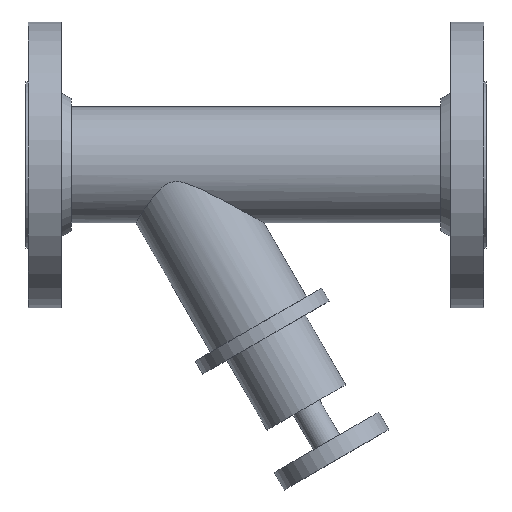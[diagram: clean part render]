
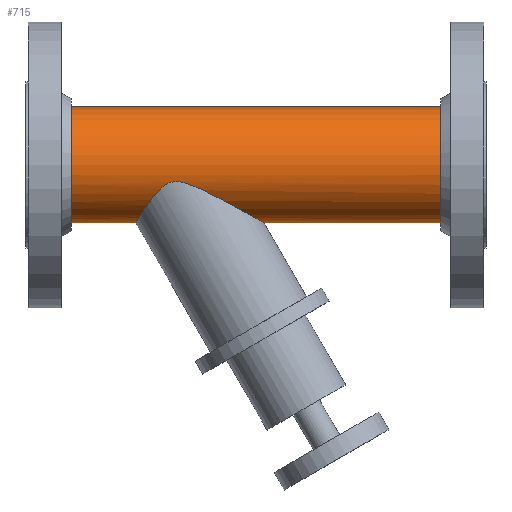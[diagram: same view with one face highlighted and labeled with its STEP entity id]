
A CAD part, top view. The second image highlights one B-rep face of the part: STEP entity #715.
In plain terms, the highlighted cylindrical face has radius 36.513 mm (diameter 73.025 mm), a full revolution.
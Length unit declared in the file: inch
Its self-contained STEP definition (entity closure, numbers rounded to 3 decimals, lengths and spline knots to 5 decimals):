
#45=B_SPLINE_CURVE_WITH_KNOTS('',3,(#1248,#1249,#1250,#1251,#1252,#1253,
#1254,#1255,#1256,#1257,#1258,#1259,#1260,#1261,#1262,#1263,#1264,#1265,
#1266,#1267,#1268,#1269,#1270,#1271,#1272,#1273,#1274,#1275,#1276,#1277,
#1278,#1279,#1280,#1281,#1282,#1283,#1284,#1285),.UNSPECIFIED.,.F.,.F.,
(4,2,2,2,2,2,2,2,2,2,2,2,2,2,2,2,2,2,4),(7.33807,8.05172,
8.76537,9.47902,10.19267,11.52354,12.85441,
13.76527,14.22071,14.67614,14.94482,15.21351,
15.75087,16.48563,17.22039,18.02305,18.8257,
19.43901,20.05231),.UNSPECIFIED.);
#46=B_SPLINE_CURVE_WITH_KNOTS('',3,(#1288,#1289,#1290,#1291,#1292,#1293,
#1294,#1295,#1296,#1297,#1298,#1299,#1300,#1301,#1302,#1303,#1304,#1305,
#1306,#1307),.UNSPECIFIED.,.F.,.F.,(4,2,2,2,2,2,2,2,2,4),(20.05231,
20.66561,21.27891,22.08157,22.88423,23.61899,
24.35374,24.89111,25.15979,25.42847),
 .UNSPECIFIED.);
#47=B_SPLINE_CURVE_WITH_KNOTS('',3,(#1308,#1309,#1310,#1311,#1312,#1313,
#1314,#1315,#1316,#1317,#1318,#1319,#1320,#1321,#1322,#1323,#1324,#1325,
#1326,#1327),.UNSPECIFIED.,.F.,.F.,(4,2,2,2,2,2,2,2,2,4),(0.,0.45543,
0.91087,1.82174,3.1526,4.48347,5.19712,
5.91077,6.62442,7.33807),.UNSPECIFIED.);
#65=LINE('',#1246,#87);
#66=LINE('',#1286,#88);
#87=VECTOR('',#1018,1.4375);
#88=VECTOR('',#1019,1.4375);
#107=CYLINDRICAL_SURFACE('',#817,1.4375);
#162=FACE_OUTER_BOUND('',#218,.T.);
#218=EDGE_LOOP('',(#577,#578,#579,#580,#581,#582,#583,#584,#585,#586,#587));
#239=CIRCLE('',#751,1.4375);
#240=CIRCLE('',#752,1.4375);
#273=CIRCLE('',#800,1.4375);
#274=CIRCLE('',#801,1.4375);
#305=VERTEX_POINT('',#1117);
#306=VERTEX_POINT('',#1118);
#339=VERTEX_POINT('',#1212);
#340=VERTEX_POINT('',#1213);
#351=VERTEX_POINT('',#1245);
#352=VERTEX_POINT('',#1247);
#353=VERTEX_POINT('',#1287);
#374=EDGE_CURVE('',#305,#306,#239,.T.);
#375=EDGE_CURVE('',#306,#305,#240,.T.);
#420=EDGE_CURVE('',#339,#340,#273,.T.);
#421=EDGE_CURVE('',#340,#339,#274,.T.);
#435=EDGE_CURVE('',#340,#351,#65,.T.);
#436=EDGE_CURVE('',#351,#352,#45,.T.);
#437=EDGE_CURVE('',#352,#306,#66,.T.);
#438=EDGE_CURVE('',#352,#353,#46,.T.);
#439=EDGE_CURVE('',#353,#351,#47,.T.);
#577=ORIENTED_EDGE('',*,*,#420,.T.);
#578=ORIENTED_EDGE('',*,*,#435,.T.);
#579=ORIENTED_EDGE('',*,*,#436,.T.);
#580=ORIENTED_EDGE('',*,*,#437,.T.);
#581=ORIENTED_EDGE('',*,*,#375,.T.);
#582=ORIENTED_EDGE('',*,*,#374,.T.);
#583=ORIENTED_EDGE('',*,*,#437,.F.);
#584=ORIENTED_EDGE('',*,*,#438,.T.);
#585=ORIENTED_EDGE('',*,*,#439,.T.);
#586=ORIENTED_EDGE('',*,*,#435,.F.);
#587=ORIENTED_EDGE('',*,*,#421,.T.);
#715=ADVANCED_FACE('',(#162),#107,.T.);
#751=AXIS2_PLACEMENT_3D('',#1119,#869,#870);
#752=AXIS2_PLACEMENT_3D('',#1120,#871,#872);
#800=AXIS2_PLACEMENT_3D('',#1214,#979,#980);
#801=AXIS2_PLACEMENT_3D('',#1215,#981,#982);
#817=AXIS2_PLACEMENT_3D('',#1244,#1016,#1017);
#869=DIRECTION('center_axis',(1.,0.,0.));
#870=DIRECTION('ref_axis',(0.,1.,0.));
#871=DIRECTION('center_axis',(1.,0.,0.));
#872=DIRECTION('ref_axis',(0.,1.,0.));
#979=DIRECTION('center_axis',(-1.,0.,0.));
#980=DIRECTION('ref_axis',(0.,1.,0.));
#981=DIRECTION('center_axis',(-1.,0.,0.));
#982=DIRECTION('ref_axis',(0.,1.,0.));
#1016=DIRECTION('center_axis',(1.,0.,0.));
#1017=DIRECTION('ref_axis',(0.,1.,0.));
#1018=DIRECTION('',(-1.,0.,0.));
#1019=DIRECTION('',(-1.,0.,0.));
#1117=CARTESIAN_POINT('',(-4.58,1.4375,0.));
#1118=CARTESIAN_POINT('',(-4.58,-1.4375,0.));
#1119=CARTESIAN_POINT('Origin',(-4.58,0.,0.));
#1120=CARTESIAN_POINT('Origin',(-4.58,0.,0.));
#1212=CARTESIAN_POINT('',(4.58,1.4375,0.));
#1213=CARTESIAN_POINT('',(4.58,-1.4375,0.));
#1214=CARTESIAN_POINT('Origin',(4.58,0.,0.));
#1215=CARTESIAN_POINT('Origin',(4.58,0.,0.));
#1244=CARTESIAN_POINT('Origin',(0.,0.,0.));
#1245=CARTESIAN_POINT('',(0.19145,-1.4375,0.));
#1246=CARTESIAN_POINT('',(0.,-1.4375,0.));
#1247=CARTESIAN_POINT('',(-2.98398,-1.4375,0.));
#1248=CARTESIAN_POINT('Ctrl Pts',(0.19145,-1.4375,0.));
#1249=CARTESIAN_POINT('Ctrl Pts',(0.19145,-1.4375,-0.09365));
#1250=CARTESIAN_POINT('Ctrl Pts',(0.17506,-1.42831,-0.18454));
#1251=CARTESIAN_POINT('Ctrl Pts',(0.11591,-1.3952,-0.35711));
#1252=CARTESIAN_POINT('Ctrl Pts',(0.07315,-1.37129,
-0.43879));
#1253=CARTESIAN_POINT('Ctrl Pts',(-0.03073,-1.31335,
-0.58998));
#1254=CARTESIAN_POINT('Ctrl Pts',(-0.0919,-1.2793,
-0.6596));
#1255=CARTESIAN_POINT('Ctrl Pts',(-0.22353,-1.20633,
-0.78514));
#1256=CARTESIAN_POINT('Ctrl Pts',(-0.29398,-1.16742,
-0.84107));
#1257=CARTESIAN_POINT('Ctrl Pts',(-0.49469,-1.0572,
-0.9809));
#1258=CARTESIAN_POINT('Ctrl Pts',(-0.6466,-0.97443,
-1.06221));
#1259=CARTESIAN_POINT('Ctrl Pts',(-0.96283,-0.80677,
-1.19454));
#1260=CARTESIAN_POINT('Ctrl Pts',(-1.12705,-0.72188,
-1.24583));
#1261=CARTESIAN_POINT('Ctrl Pts',(-1.38637,-0.59788,
-1.30848));
#1262=CARTESIAN_POINT('Ctrl Pts',(-1.50374,-0.54418,
-1.33136));
#1263=CARTESIAN_POINT('Ctrl Pts',(-1.68328,-0.47764,
-1.35603));
#1264=CARTESIAN_POINT('Ctrl Pts',(-1.74368,-0.4579,
-1.36271));
#1265=CARTESIAN_POINT('Ctrl Pts',(-1.86423,-0.42872,
-1.37217));
#1266=CARTESIAN_POINT('Ctrl Pts',(-1.92437,-0.41926,
-1.375));
#1267=CARTESIAN_POINT('Ctrl Pts',(-2.0194,-0.41926,-1.375));
#1268=CARTESIAN_POINT('Ctrl Pts',(-2.05574,-0.42272,
-1.37397));
#1269=CARTESIAN_POINT('Ctrl Pts',(-2.1271,-0.4387,
-1.36895));
#1270=CARTESIAN_POINT('Ctrl Pts',(-2.16211,-0.45126,
-1.36494));
#1271=CARTESIAN_POINT('Ctrl Pts',(-2.26132,-0.50009,
-1.34815));
#1272=CARTESIAN_POINT('Ctrl Pts',(-2.32018,-0.54751,
-1.33012));
#1273=CARTESIAN_POINT('Ctrl Pts',(-2.43573,-0.65724,-1.28035));
#1274=CARTESIAN_POINT('Ctrl Pts',(-2.49828,-0.73191,
-1.24036));
#1275=CARTESIAN_POINT('Ctrl Pts',(-2.61165,-0.87814,-1.14152));
#1276=CARTESIAN_POINT('Ctrl Pts',(-2.66239,-0.9497,
-1.08258));
#1277=CARTESIAN_POINT('Ctrl Pts',(-2.75139,-1.07839,-0.9552));
#1278=CARTESIAN_POINT('Ctrl Pts',(-2.79672,-1.14653,-0.87378));
#1279=CARTESIAN_POINT('Ctrl Pts',(-2.87355,-1.26396,-0.69312));
#1280=CARTESIAN_POINT('Ctrl Pts',(-2.90505,-1.31315,-0.59382));
#1281=CARTESIAN_POINT('Ctrl Pts',(-2.94507,-1.37593,-0.42357));
#1282=CARTESIAN_POINT('Ctrl Pts',(-2.95998,-1.39947,-0.33982));
#1283=CARTESIAN_POINT('Ctrl Pts',(-2.97943,-1.43027,-0.16828));
#1284=CARTESIAN_POINT('Ctrl Pts',(-2.98398,-1.4375,-0.08049));
#1285=CARTESIAN_POINT('Ctrl Pts',(-2.98398,-1.4375,0.));
#1286=CARTESIAN_POINT('',(0.,-1.4375,0.));
#1287=CARTESIAN_POINT('',(-1.98414,-0.41926,1.375));
#1288=CARTESIAN_POINT('Ctrl Pts',(-2.98398,-1.4375,0.));
#1289=CARTESIAN_POINT('Ctrl Pts',(-2.98398,-1.4375,0.08049));
#1290=CARTESIAN_POINT('Ctrl Pts',(-2.97943,-1.43027,0.16828));
#1291=CARTESIAN_POINT('Ctrl Pts',(-2.95998,-1.39947,0.33982));
#1292=CARTESIAN_POINT('Ctrl Pts',(-2.94507,-1.37593,0.42357));
#1293=CARTESIAN_POINT('Ctrl Pts',(-2.90505,-1.31315,0.59382));
#1294=CARTESIAN_POINT('Ctrl Pts',(-2.87355,-1.26396,0.69312));
#1295=CARTESIAN_POINT('Ctrl Pts',(-2.79672,-1.14653,0.87378));
#1296=CARTESIAN_POINT('Ctrl Pts',(-2.75139,-1.07839,0.9552));
#1297=CARTESIAN_POINT('Ctrl Pts',(-2.66239,-0.9497,
1.08258));
#1298=CARTESIAN_POINT('Ctrl Pts',(-2.61165,-0.87814,1.14152));
#1299=CARTESIAN_POINT('Ctrl Pts',(-2.49828,-0.73191,
1.24036));
#1300=CARTESIAN_POINT('Ctrl Pts',(-2.43573,-0.65724,1.28035));
#1301=CARTESIAN_POINT('Ctrl Pts',(-2.32018,-0.54751,
1.33012));
#1302=CARTESIAN_POINT('Ctrl Pts',(-2.26132,-0.50009,
1.34815));
#1303=CARTESIAN_POINT('Ctrl Pts',(-2.16211,-0.45126,
1.36494));
#1304=CARTESIAN_POINT('Ctrl Pts',(-2.1271,-0.4387,
1.36895));
#1305=CARTESIAN_POINT('Ctrl Pts',(-2.05574,-0.42272,
1.37397));
#1306=CARTESIAN_POINT('Ctrl Pts',(-2.0194,-0.41926,1.375));
#1307=CARTESIAN_POINT('Ctrl Pts',(-1.98414,-0.41926,1.375));
#1308=CARTESIAN_POINT('Ctrl Pts',(-1.98414,-0.41926,1.375));
#1309=CARTESIAN_POINT('Ctrl Pts',(-1.92437,-0.41926,
1.375));
#1310=CARTESIAN_POINT('Ctrl Pts',(-1.86423,-0.42872,
1.37217));
#1311=CARTESIAN_POINT('Ctrl Pts',(-1.74368,-0.4579,
1.36271));
#1312=CARTESIAN_POINT('Ctrl Pts',(-1.68328,-0.47764,
1.35603));
#1313=CARTESIAN_POINT('Ctrl Pts',(-1.50374,-0.54418,
1.33136));
#1314=CARTESIAN_POINT('Ctrl Pts',(-1.38637,-0.59788,
1.30848));
#1315=CARTESIAN_POINT('Ctrl Pts',(-1.12705,-0.72188,
1.24583));
#1316=CARTESIAN_POINT('Ctrl Pts',(-0.96283,-0.80677,
1.19454));
#1317=CARTESIAN_POINT('Ctrl Pts',(-0.6466,-0.97443,
1.06221));
#1318=CARTESIAN_POINT('Ctrl Pts',(-0.49469,-1.0572,0.9809));
#1319=CARTESIAN_POINT('Ctrl Pts',(-0.29398,-1.16742,
0.84107));
#1320=CARTESIAN_POINT('Ctrl Pts',(-0.22353,-1.20633,
0.78514));
#1321=CARTESIAN_POINT('Ctrl Pts',(-0.0919,-1.2793,
0.6596));
#1322=CARTESIAN_POINT('Ctrl Pts',(-0.03073,-1.31335,
0.58998));
#1323=CARTESIAN_POINT('Ctrl Pts',(0.07315,-1.37129,
0.43879));
#1324=CARTESIAN_POINT('Ctrl Pts',(0.11591,-1.3952,0.35711));
#1325=CARTESIAN_POINT('Ctrl Pts',(0.17506,-1.42831,0.18454));
#1326=CARTESIAN_POINT('Ctrl Pts',(0.19145,-1.4375,0.09365));
#1327=CARTESIAN_POINT('Ctrl Pts',(0.19145,-1.4375,0.));
